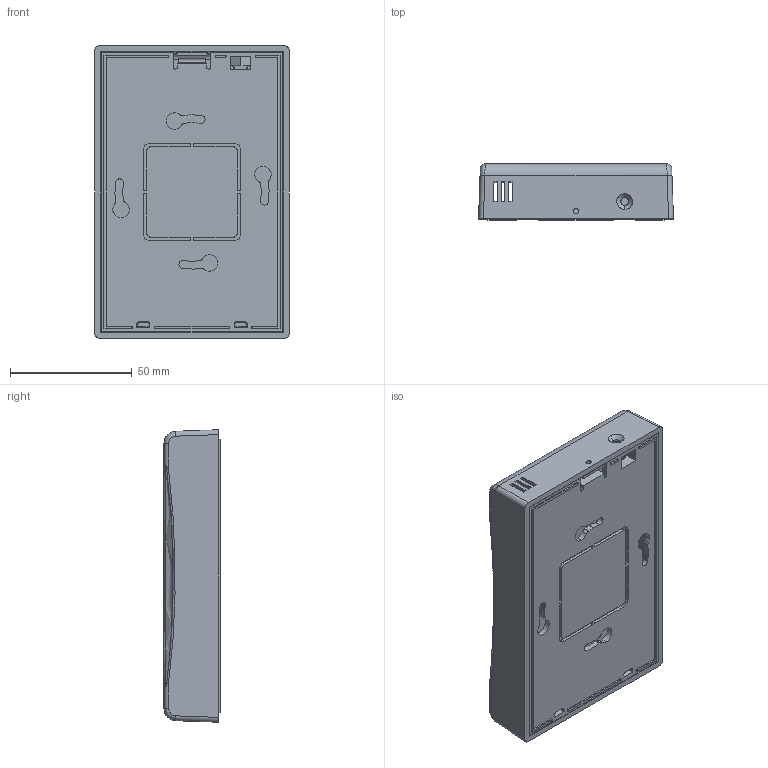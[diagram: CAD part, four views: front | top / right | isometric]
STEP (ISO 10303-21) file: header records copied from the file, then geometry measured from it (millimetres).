
FILE_DESCRIPTION (( 'STEP AP203' ), '1' );
FILE_NAME ('DM-8012-0-0.STEP', '2024-07-05T05:27:33', ( '' ), ( '' ), 'SwSTEP 2.0', 'SolidWorks 2021', '' );
FILE_SCHEMA (( 'CONFIG_CONTROL_DESIGN' ));
Length unit declared in the file: millimetre
Products named in the file (3): DM-8012-0-0; DM-8012-P-2; DM-8012-P-1
Assembly tree (2 placements, depth 2):
  DM-8012-0-0
    DM-8012-P-2
    DM-8012-P-1
Bounding box: 80 x 23 x 120 mm (x, y, z)
Volume: 63560.3 mm3; surface area: 56522.4 mm2
Topology: 2 solids, 2 shells, 465 faces, 1257 edges, 818 vertices
Faces by surface type: plane 293, cone 92, cylinder 54, bspline 14, torus 12
Entity records: 15928 total; most frequent: CARTESIAN_POINT 3989, ORIENTED_EDGE 2514, DIRECTION 2291, EDGE_CURVE 1257, VECTOR 899, LINE 899, VERTEX_POINT 818, AXIS2_PLACEMENT_3D 696
